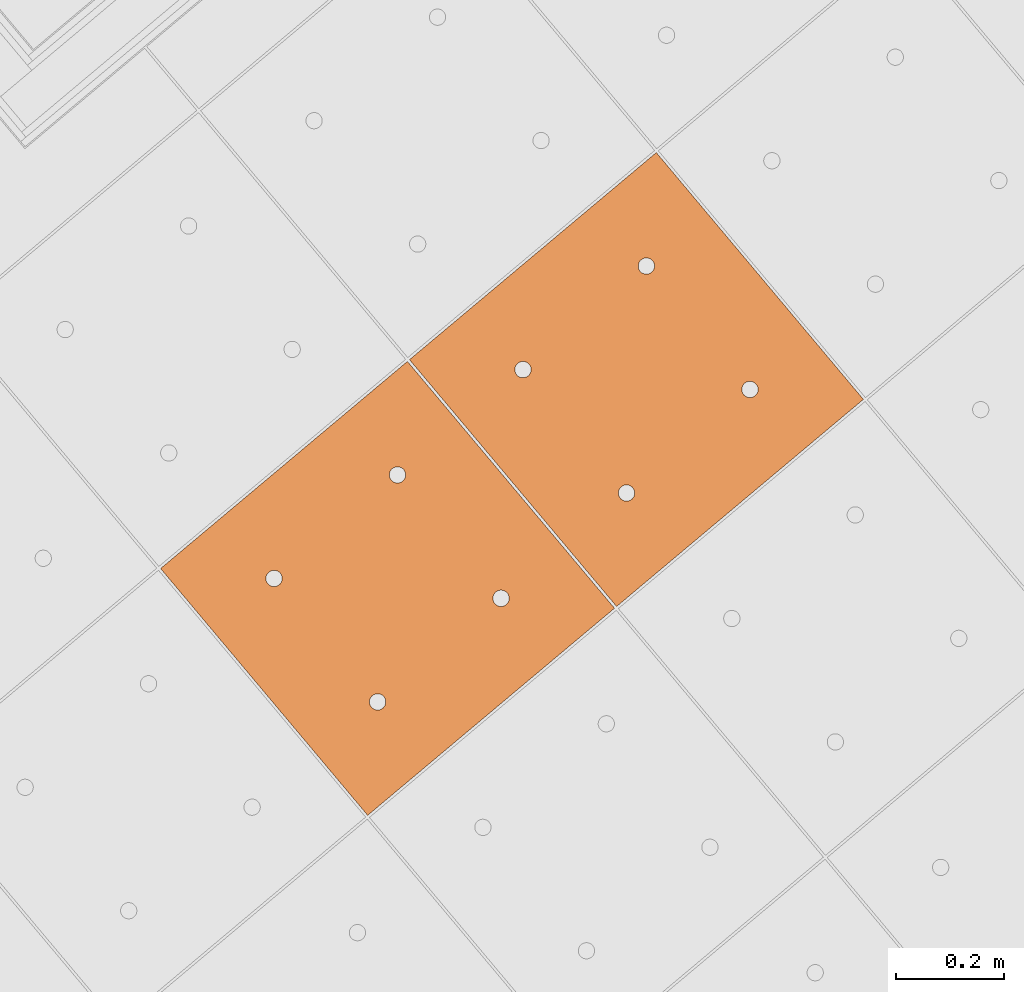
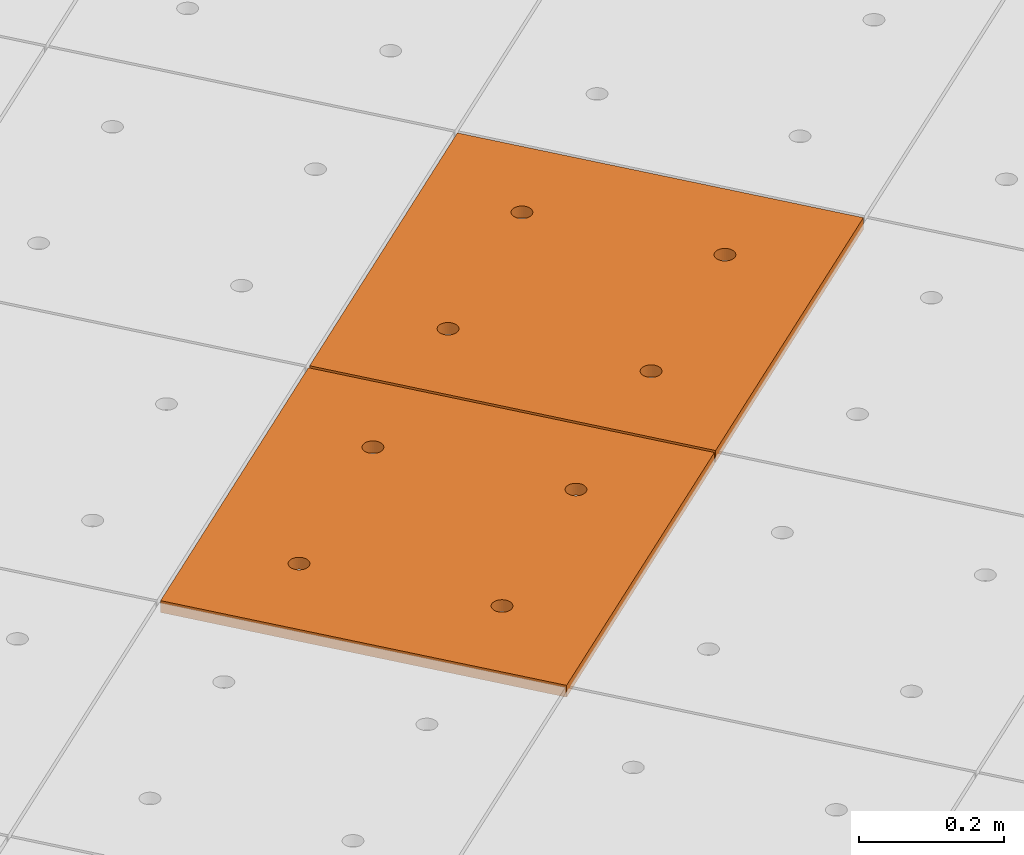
# One storey, part 186 of 338: 2 proxies, 1 element without a shape of its own.
"""IFC2X3 building model written with IfcOpenShell, lengths in millimetres."""

from ifc_helpers import new_model, entity, si_unit, converted_unit, derived_unit, money_unit, direction, frame, origin_with_axes, place, context, subcontext, project, spatial, faceted_brep, source, transform, mapped, material, type_object, type_shapes, element, aggregate, save


model = new_model("IFC2X3")

# Units and contexts
model_context = context("Model", 3, precision=0.01, world=origin_with_axes(), true_north=direction((0.0, 1.0)))
plan_context = context("Plan", 3, precision=0.01, world=origin_with_axes(), true_north=direction((0.0, 1.0)))
body_context = subcontext(model_context, "Body", "Model", "MODEL_VIEW")
ifc_project = project(units=[si_unit("LENGTHUNIT", "METRE", prefix="MILLI"), si_unit("AREAUNIT", "SQUARE_METRE"), si_unit("VOLUMEUNIT", "CUBIC_METRE"), converted_unit("PLANEANGLEUNIT", "DEGREE", entity("IfcPlaneAngleMeasure", 0.0174532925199), si_unit("PLANEANGLEUNIT", "RADIAN"), dimensions=[0, 0, 0, 0, 0, 0, 0]), money_unit("EUR"), converted_unit("TIMEUNIT", "Year", entity("IfcTimeMeasure", 31556926.0), si_unit("TIMEUNIT", "SECOND"), dimensions=[0, 0, 1, 0, 0, 0, 0]), si_unit("MASSUNIT", "GRAM", prefix="KILO"), si_unit("THERMODYNAMICTEMPERATUREUNIT", "DEGREE_CELSIUS"), si_unit("LUMINOUSINTENSITYUNIT", "LUMEN"), si_unit("ENERGYUNIT", "JOULE", prefix="MEGA"), derived_unit("THERMALCONDUCTANCEUNIT", [(si_unit("POWERUNIT", "WATT"), 1), (si_unit("LENGTHUNIT", "METRE"), -1), (si_unit("THERMODYNAMICTEMPERATUREUNIT", "KELVIN"), -1)]), derived_unit("SPECIFICHEATCAPACITYUNIT", [(si_unit("ENERGYUNIT", "JOULE"), 1), (si_unit("MASSUNIT", "GRAM", prefix="KILO"), -1), (si_unit("THERMODYNAMICTEMPERATUREUNIT", "KELVIN"), -1)]), derived_unit("MASSDENSITYUNIT", [(si_unit("MASSUNIT", "GRAM", prefix="KILO"), 1), (si_unit("VOLUMEUNIT", "CUBIC_METRE"), -1)])], contexts=[model_context, plan_context])

# Site, building, storey
site_placement = place(None, origin_with_axes())
site = spatial("IfcSite", under=ifc_project, at=site_placement, Name="Fortuinstraat Woensdrecht", CompositionType="ELEMENT")
building_placement = place(site_placement, origin_with_axes())
building = spatial("IfcBuilding", under=site, at=building_placement, Name="IKC Fortuna", CompositionType="ELEMENT")
storey_placement = place(building_placement, origin_with_axes())
storey = spatial("IfcBuildingStorey", under=building, at=storey_placement, Name="00 begane grond", CompositionType="ELEMENT", Elevation=0.0)

# Covering, proxies
covering_type = type_object("IfcCoveringType", Name="Curtain Wall Type", PredefinedType="CEILING")
covering_placement = place(storey_placement, frame((19785.7448517, -11392.5753808, 4660.0), z_axis=(0.0, 0.0, 1.0), x_axis=(1.0, 0.0, 0.0)))
covering = element("IfcCovering", 1, at=covering_placement, inside=storey, type_object=covering_type, Name="45_Plafondafwerking_P01", PredefinedType="CEILING")
ifc_material = material(Name="Gipsplaat")
building_element_proxy_type = type_object("IfcBuildingElementProxyType", Name="Main Panel 600 x 600 x 20", PredefinedType="NOTDEFINED")
shared_shape = source(origin_with_axes(), body_context, "Body", "Brep", [
    faceted_brep([(2.49999999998, 2.49999999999, -10.0), (300.0, 2.49999999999, -10.0), (300.0, 2.49999999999, 10.0), (2.49999999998, 2.49999999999, 10.0), (2.49999999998, 300.0, -10.0), (2.49999999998, 597.5, -10.0), (300.0, 597.5, -10.0), (597.5, 597.5, -10.0), (597.5, 300.0, -10.0), (597.5, 2.49999999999, -10.0), (166.25, 450.06232995, -10.0), (165.79423259, 452.64711538, -10.0), (164.896546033, 455.11348892, -10.0), (163.58421608, 457.38651108, -10.0), (161.897117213, 459.39711721, -10.0), (159.886511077, 461.08421608, -10.0), (157.613488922, 462.39654603, -10.0), (155.147115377, 463.29423259, -10.0), (152.562329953, 463.75, -10.0), (149.937670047, 463.75, -10.0), (147.352884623, 463.29423259, -10.0), (144.886511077, 462.39654603, -10.0), (142.613488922, 461.08421608, -10.0), (140.602882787, 459.39711721, -10.0), (138.91578392, 457.38651108, -10.0), (137.603453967, 455.11348892, -10.0), (136.705767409, 452.64711538, -10.0), (136.25, 450.06232995, -10.0), (136.25, 448.75, -10.0), (136.25, 447.43767005, -10.0), (136.705767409, 444.85288462, -10.0), (137.603453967, 442.38651108, -10.0), (138.91578392, 440.11348892, -10.0), (140.602882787, 438.10288279, -10.0), (142.613488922, 436.41578392, -10.0), (144.886511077, 435.10345397, -10.0), (147.352884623, 434.20576741, -10.0), (149.937670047, 433.75, -10.0), (152.562329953, 433.75, -10.0), (155.147115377, 434.20576741, -10.0), (157.613488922, 435.10345397, -10.0), (159.886511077, 436.41578392, -10.0), (161.897117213, 438.10288279, -10.0), (163.58421608, 440.11348892, -10.0), (164.896546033, 442.38651108, -10.0), (165.79423259, 444.85288462, -10.0), (166.25, 447.43767005, -10.0), (463.75, 450.06232995, -10.0), (463.29423259, 452.64711538, -10.0), (462.396546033, 455.11348892, -10.0), (461.08421608, 457.38651108, -10.0), (459.397117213, 459.39711721, -10.0), (457.386511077, 461.08421608, -10.0), (455.113488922, 462.39654603, -10.0), (452.647115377, 463.29423259, -10.0), (450.062329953, 463.75, -10.0), (447.437670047, 463.75, -10.0), (444.852884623, 463.29423259, -10.0), (442.386511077, 462.39654603, -10.0), (440.113488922, 461.08421608, -10.0), (438.102882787, 459.39711721, -10.0), (436.41578392, 457.38651108, -10.0), (435.103453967, 455.11348892, -10.0), (434.205767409, 452.64711538, -10.0), (433.75, 450.06232995, -10.0), (433.75, 448.75, -10.0), (433.75, 447.43767005, -10.0), (434.205767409, 444.85288462, -10.0), (435.103453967, 442.38651108, -10.0), (436.41578392, 440.11348892, -10.0), (438.102882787, 438.10288279, -10.0), (440.113488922, 436.41578392, -10.0), (442.386511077, 435.10345397, -10.0), (444.852884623, 434.20576741, -10.0), (447.437670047, 433.75, -10.0), (450.062329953, 433.75, -10.0), (452.647115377, 434.20576741, -10.0), (455.113488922, 435.10345397, -10.0), (457.386511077, 436.41578392, -10.0), (459.397117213, 438.10288279, -10.0), (461.08421608, 440.11348892, -10.0), (462.396546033, 442.38651108, -10.0), (463.29423259, 444.85288462, -10.0), (463.75, 447.43767005, -10.0), (463.75, 152.56232995, -10.0), (463.29423259, 155.14711538, -10.0), (462.396546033, 157.61348892, -10.0), (461.08421608, 159.88651108, -10.0), (459.397117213, 161.89711721, -10.0), (457.386511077, 163.58421608, -10.0), (455.113488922, 164.89654603, -10.0), (452.647115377, 165.79423259, -10.0), (450.062329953, 166.25, -10.0), (447.437670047, 166.25, -10.0), (444.852884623, 165.79423259, -10.0), (442.386511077, 164.89654603, -10.0), (440.113488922, 163.58421608, -10.0), (438.102882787, 161.89711721, -10.0), (436.41578392, 159.88651108, -10.0), (435.103453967, 157.61348892, -10.0), (434.205767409, 155.14711538, -10.0), (433.75, 152.56232995, -10.0), (433.75, 151.25, -10.0), (433.75, 149.93767005, -10.0), (434.205767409, 147.35288462, -10.0), (435.103453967, 144.88651108, -10.0), (436.41578392, 142.61348892, -10.0), (438.102882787, 140.60288279, -10.0), (440.113488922, 138.91578392, -10.0), (442.386511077, 137.60345397, -10.0), (444.852884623, 136.70576741, -10.0), (447.437670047, 136.25, -10.0), (450.062329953, 136.25, -10.0), (452.647115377, 136.70576741, -10.0), (455.113488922, 137.60345397, -10.0), (457.386511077, 138.91578392, -10.0), (459.397117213, 140.60288279, -10.0), (461.08421608, 142.61348892, -10.0), (462.396546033, 144.88651108, -10.0), (463.29423259, 147.35288462, -10.0), (463.75, 149.93767005, -10.0), (166.25, 152.56232995, -10.0), (165.79423259, 155.14711538, -10.0), (164.896546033, 157.61348892, -10.0), (163.58421608, 159.88651108, -10.0), (161.897117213, 161.89711721, -10.0), (159.886511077, 163.58421608, -10.0), (157.613488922, 164.89654603, -10.0), (155.147115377, 165.79423259, -10.0), (152.562329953, 166.25, -10.0), (149.937670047, 166.25, -10.0), (147.352884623, 165.79423259, -10.0), (144.886511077, 164.89654603, -10.0), (142.613488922, 163.58421608, -10.0), (140.602882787, 161.89711721, -10.0), (138.91578392, 159.88651108, -10.0), (137.603453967, 157.61348892, -10.0), (136.705767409, 155.14711538, -10.0), (136.25, 152.56232995, -10.0), (136.25, 151.25, -10.0), (136.25, 149.93767005, -10.0), (136.705767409, 147.35288462, -10.0), (137.603453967, 144.88651108, -10.0), (138.91578392, 142.61348892, -10.0), (140.602882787, 140.60288279, -10.0), (142.613488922, 138.91578392, -10.0), (144.886511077, 137.60345397, -10.0), (147.352884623, 136.70576741, -10.0), (149.937670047, 136.25, -10.0), (152.562329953, 136.25, -10.0), (155.147115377, 136.70576741, -10.0), (157.613488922, 137.60345397, -10.0), (159.886511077, 138.91578392, -10.0), (161.897117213, 140.60288279, -10.0), (163.58421608, 142.61348892, -10.0), (164.896546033, 144.88651108, -10.0), (165.79423259, 147.35288462, -10.0), (166.25, 149.93767005, -10.0), (597.5, 2.49999999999, 10.0), (597.5, 300.0, 10.0), (597.5, 597.5, 10.0), (300.0, 597.5, 10.0), (2.49999999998, 597.5, 10.0), (2.49999999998, 300.0, 10.0), (166.25, 450.06232995, 10.0), (166.25, 447.43767005, 10.0), (165.79423259, 444.85288462, 10.0), (164.896546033, 442.38651108, 10.0), (163.58421608, 440.11348892, 10.0), (161.897117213, 438.10288279, 10.0), (159.886511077, 436.41578392, 10.0), (157.613488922, 435.10345397, 10.0), (155.147115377, 434.20576741, 10.0), (152.562329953, 433.75, 10.0), (149.937670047, 433.75, 10.0), (147.352884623, 434.20576741, 10.0), (144.886511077, 435.10345397, 10.0), (142.613488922, 436.41578392, 10.0), (140.602882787, 438.10288279, 10.0), (138.91578392, 440.11348892, 10.0), (137.603453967, 442.38651108, 10.0), (136.705767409, 444.85288462, 10.0), (136.25, 447.43767005, 10.0), (136.25, 448.75, 10.0), (136.25, 450.06232995, 10.0), (136.705767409, 452.64711538, 10.0), (137.603453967, 455.11348892, 10.0), (138.91578392, 457.38651108, 10.0), (140.602882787, 459.39711721, 10.0), (142.613488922, 461.08421608, 10.0), (144.886511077, 462.39654603, 10.0), (147.352884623, 463.29423259, 10.0), (149.937670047, 463.75, 10.0), (152.562329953, 463.75, 10.0), (155.147115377, 463.29423259, 10.0), (157.613488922, 462.39654603, 10.0), (159.886511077, 461.08421608, 10.0), (161.897117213, 459.39711721, 10.0), (163.58421608, 457.38651108, 10.0), (164.896546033, 455.11348892, 10.0), (165.79423259, 452.64711538, 10.0), (463.75, 450.06232995, 10.0), (463.75, 447.43767005, 10.0), (463.29423259, 444.85288462, 10.0), (462.396546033, 442.38651108, 10.0), (461.08421608, 440.11348892, 10.0), (459.397117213, 438.10288279, 10.0), (457.386511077, 436.41578392, 10.0), (455.113488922, 435.10345397, 10.0), (452.647115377, 434.20576741, 10.0), (450.062329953, 433.75, 10.0), (447.437670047, 433.75, 10.0), (444.852884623, 434.20576741, 10.0), (442.386511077, 435.10345397, 10.0), (440.113488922, 436.41578392, 10.0), (438.102882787, 438.10288279, 10.0), (436.41578392, 440.11348892, 10.0), (435.103453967, 442.38651108, 10.0), (434.205767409, 444.85288462, 10.0), (433.75, 447.43767005, 10.0), (433.75, 448.75, 10.0), (433.75, 450.06232995, 10.0), (434.205767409, 452.64711538, 10.0), (435.103453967, 455.11348892, 10.0), (436.41578392, 457.38651108, 10.0), (438.102882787, 459.39711721, 10.0), (440.113488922, 461.08421608, 10.0), (442.386511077, 462.39654603, 10.0), (444.852884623, 463.29423259, 10.0), (447.437670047, 463.75, 10.0), (450.062329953, 463.75, 10.0), (452.647115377, 463.29423259, 10.0), (455.113488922, 462.39654603, 10.0), (457.386511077, 461.08421608, 10.0), (459.397117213, 459.39711721, 10.0), (461.08421608, 457.38651108, 10.0), (462.396546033, 455.11348892, 10.0), (463.29423259, 452.64711538, 10.0), (463.75, 152.56232995, 10.0), (463.75, 149.93767005, 10.0), (463.29423259, 147.35288462, 10.0), (462.396546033, 144.88651108, 10.0), (461.08421608, 142.61348892, 10.0), (459.397117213, 140.60288279, 10.0), (457.386511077, 138.91578392, 10.0), (455.113488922, 137.60345397, 10.0), (452.647115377, 136.70576741, 10.0), (450.062329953, 136.25, 10.0), (447.437670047, 136.25, 10.0), (444.852884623, 136.70576741, 10.0), (442.386511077, 137.60345397, 10.0), (440.113488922, 138.91578392, 10.0), (438.102882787, 140.60288279, 10.0), (436.41578392, 142.61348892, 10.0), (435.103453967, 144.88651108, 10.0), (434.205767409, 147.35288462, 10.0), (433.75, 149.93767005, 10.0), (433.75, 151.25, 10.0), (433.75, 152.56232995, 10.0), (434.205767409, 155.14711538, 10.0), (435.103453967, 157.61348892, 10.0), (436.41578392, 159.88651108, 10.0), (438.102882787, 161.89711721, 10.0), (440.113488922, 163.58421608, 10.0), (442.386511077, 164.89654603, 10.0), (444.852884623, 165.79423259, 10.0), (447.437670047, 166.25, 10.0), (450.062329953, 166.25, 10.0), (452.647115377, 165.79423259, 10.0), (455.113488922, 164.89654603, 10.0), (457.386511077, 163.58421608, 10.0), (459.397117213, 161.89711721, 10.0), (461.08421608, 159.88651108, 10.0), (462.396546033, 157.61348892, 10.0), (463.29423259, 155.14711538, 10.0), (166.25, 152.56232995, 10.0), (166.25, 149.93767005, 10.0), (165.79423259, 147.35288462, 10.0), (164.896546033, 144.88651108, 10.0), (163.58421608, 142.61348892, 10.0), (161.897117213, 140.60288279, 10.0), (159.886511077, 138.91578392, 10.0), (157.613488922, 137.60345397, 10.0), (155.147115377, 136.70576741, 10.0), (152.562329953, 136.25, 10.0), (149.937670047, 136.25, 10.0), (147.352884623, 136.70576741, 10.0), (144.886511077, 137.60345397, 10.0), (142.613488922, 138.91578392, 10.0), (140.602882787, 140.60288279, 10.0), (138.91578392, 142.61348892, 10.0), (137.603453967, 144.88651108, 10.0), (136.705767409, 147.35288462, 10.0), (136.25, 149.93767005, 10.0), (136.25, 151.25, 10.0), (136.25, 152.56232995, 10.0), (136.705767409, 155.14711538, 10.0), (137.603453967, 157.61348892, 10.0), (138.91578392, 159.88651108, 10.0), (140.602882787, 161.89711721, 10.0), (142.613488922, 163.58421608, 10.0), (144.886511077, 164.89654603, 10.0), (147.352884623, 165.79423259, 10.0), (149.937670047, 166.25, 10.0), (152.562329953, 166.25, 10.0), (155.147115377, 165.79423259, 10.0), (157.613488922, 164.89654603, 10.0), (159.886511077, 163.58421608, 10.0), (161.897117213, 161.89711721, 10.0), (163.58421608, 159.88651108, 10.0), (164.896546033, 157.61348892, 10.0), (165.79423259, 155.14711538, 10.0)], [[[0, 1, 2, 3]], [[0, 4, 5, 6, 7, 8, 9, 1], [10, 11, 12, 13, 14, 15, 16, 17, 18, 19, 20, 21, 22, 23, 24, 25, 26, 27, 28, 29, 30, 31, 32, 33, 34, 35, 36, 37, 38, 39, 40, 41, 42, 43, 44, 45, 46], [47, 48, 49, 50, 51, 52, 53, 54, 55, 56, 57, 58, 59, 60, 61, 62, 63, 64, 65, 66, 67, 68, 69, 70, 71, 72, 73, 74, 75, 76, 77, 78, 79, 80, 81, 82, 83], [84, 85, 86, 87, 88, 89, 90, 91, 92, 93, 94, 95, 96, 97, 98, 99, 100, 101, 102, 103, 104, 105, 106, 107, 108, 109, 110, 111, 112, 113, 114, 115, 116, 117, 118, 119, 120], [121, 122, 123, 124, 125, 126, 127, 128, 129, 130, 131, 132, 133, 134, 135, 136, 137, 138, 139, 140, 141, 142, 143, 144, 145, 146, 147, 148, 149, 150, 151, 152, 153, 154, 155, 156, 157]], [[1, 9, 158, 2]], [[3, 2, 158, 159, 160, 161, 162, 163], [164, 165, 166, 167, 168, 169, 170, 171, 172, 173, 174, 175, 176, 177, 178, 179, 180, 181, 182, 183, 184, 185, 186, 187, 188, 189, 190, 191, 192, 193, 194, 195, 196, 197, 198, 199, 200], [201, 202, 203, 204, 205, 206, 207, 208, 209, 210, 211, 212, 213, 214, 215, 216, 217, 218, 219, 220, 221, 222, 223, 224, 225, 226, 227, 228, 229, 230, 231, 232, 233, 234, 235, 236, 237], [238, 239, 240, 241, 242, 243, 244, 245, 246, 247, 248, 249, 250, 251, 252, 253, 254, 255, 256, 257, 258, 259, 260, 261, 262, 263, 264, 265, 266, 267, 268, 269, 270, 271, 272, 273, 274], [275, 276, 277, 278, 279, 280, 281, 282, 283, 284, 285, 286, 287, 288, 289, 290, 291, 292, 293, 294, 295, 296, 297, 298, 299, 300, 301, 302, 303, 304, 305, 306, 307, 308, 309, 310, 311]], [[4, 0, 3, 163]], [[5, 4, 163, 162]], [[6, 5, 162, 161]], [[7, 6, 161, 160]], [[8, 7, 160, 159]], [[9, 8, 159, 158]], [[11, 10, 164, 200]], [[12, 11, 200, 199]], [[13, 12, 199, 198]], [[14, 13, 198, 197]], [[15, 14, 197, 196]], [[16, 15, 196, 195]], [[17, 16, 195, 194]], [[18, 17, 194, 193]], [[19, 18, 193, 192]], [[20, 19, 192, 191]], [[21, 20, 191, 190]], [[22, 21, 190, 189]], [[23, 22, 189, 188]], [[24, 23, 188, 187]], [[25, 24, 187, 186]], [[26, 25, 186, 185]], [[27, 26, 185, 184]], [[28, 27, 184, 183]], [[29, 28, 183, 182]], [[30, 29, 182, 181]], [[31, 30, 181, 180]], [[32, 31, 180, 179]], [[33, 32, 179, 178]], [[34, 33, 178, 177]], [[35, 34, 177, 176]], [[36, 35, 176, 175]], [[37, 36, 175, 174]], [[38, 37, 174, 173]], [[39, 38, 173, 172]], [[40, 39, 172, 171]], [[41, 40, 171, 170]], [[42, 41, 170, 169]], [[43, 42, 169, 168]], [[44, 43, 168, 167]], [[45, 44, 167, 166]], [[46, 45, 166, 165]], [[10, 46, 165, 164]], [[48, 47, 201, 237]], [[49, 48, 237, 236]], [[50, 49, 236, 235]], [[51, 50, 235, 234]], [[52, 51, 234, 233]], [[53, 52, 233, 232]], [[54, 53, 232, 231]], [[55, 54, 231, 230]], [[56, 55, 230, 229]], [[57, 56, 229, 228]], [[58, 57, 228, 227]], [[59, 58, 227, 226]], [[60, 59, 226, 225]], [[61, 60, 225, 224]], [[62, 61, 224, 223]], [[63, 62, 223, 222]], [[64, 63, 222, 221]], [[65, 64, 221, 220]], [[66, 65, 220, 219]], [[67, 66, 219, 218]], [[68, 67, 218, 217]], [[69, 68, 217, 216]], [[70, 69, 216, 215]], [[71, 70, 215, 214]], [[72, 71, 214, 213]], [[73, 72, 213, 212]], [[74, 73, 212, 211]], [[75, 74, 211, 210]], [[76, 75, 210, 209]], [[77, 76, 209, 208]], [[78, 77, 208, 207]], [[79, 78, 207, 206]], [[80, 79, 206, 205]], [[81, 80, 205, 204]], [[82, 81, 204, 203]], [[83, 82, 203, 202]], [[47, 83, 202, 201]], [[85, 84, 238, 274]], [[86, 85, 274, 273]], [[87, 86, 273, 272]], [[88, 87, 272, 271]], [[89, 88, 271, 270]], [[90, 89, 270, 269]], [[91, 90, 269, 268]], [[92, 91, 268, 267]], [[93, 92, 267, 266]], [[94, 93, 266, 265]], [[95, 94, 265, 264]], [[96, 95, 264, 263]], [[97, 96, 263, 262]], [[98, 97, 262, 261]], [[99, 98, 261, 260]], [[100, 99, 260, 259]], [[101, 100, 259, 258]], [[102, 101, 258, 257]], [[103, 102, 257, 256]], [[104, 103, 256, 255]], [[105, 104, 255, 254]], [[106, 105, 254, 253]], [[107, 106, 253, 252]], [[108, 107, 252, 251]], [[109, 108, 251, 250]], [[110, 109, 250, 249]], [[111, 110, 249, 248]], [[112, 111, 248, 247]], [[113, 112, 247, 246]], [[114, 113, 246, 245]], [[115, 114, 245, 244]], [[116, 115, 244, 243]], [[117, 116, 243, 242]], [[118, 117, 242, 241]], [[119, 118, 241, 240]], [[120, 119, 240, 239]], [[84, 120, 239, 238]], [[122, 121, 275, 311]], [[123, 122, 311, 310]], [[124, 123, 310, 309]], [[125, 124, 309, 308]], [[126, 125, 308, 307]], [[127, 126, 307, 306]], [[128, 127, 306, 305]], [[129, 128, 305, 304]], [[130, 129, 304, 303]], [[131, 130, 303, 302]], [[132, 131, 302, 301]], [[133, 132, 301, 300]], [[134, 133, 300, 299]], [[135, 134, 299, 298]], [[136, 135, 298, 297]], [[137, 136, 297, 296]], [[138, 137, 296, 295]], [[139, 138, 295, 294]], [[140, 139, 294, 293]], [[141, 140, 293, 292]], [[142, 141, 292, 291]], [[143, 142, 291, 290]], [[144, 143, 290, 289]], [[145, 144, 289, 288]], [[146, 145, 288, 287]], [[147, 146, 287, 286]], [[148, 147, 286, 285]], [[149, 148, 285, 284]], [[150, 149, 284, 283]], [[151, 150, 283, 282]], [[152, 151, 282, 281]], [[153, 152, 281, 280]], [[154, 153, 280, 279]], [[155, 154, 279, 278]], [[156, 155, 278, 277]], [[157, 156, 277, 276]], [[121, 157, 276, 275]]]),
])
type_shapes(building_element_proxy_type, [shared_shape])
proxy_1_placement = place(covering_placement, frame((-1222.7371047, 5982.41004303, 1.41220368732e-10), z_axis=(0.0, 0.0, 1.0), x_axis=(1.0, 0.0, 0.0)))
proxy_1 = element("IfcBuildingElementProxy", 2, at=proxy_1_placement, type_object=building_element_proxy_type, material=ifc_material, Name="__600x628 Rockfon Krios", context=body_context, shape_type="MappedRepresentation", body=[
    mapped(shared_shape, transform((36.9769427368, 422.649625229, 0.0), x_axis=(-0.766044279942, -0.642787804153, 0.0), y_axis=(0.642787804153, -0.766044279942, 0.0), z_axis=(0.0, 0.0, 1.0))),
])
proxy_2_placement = place(covering_placement, frame((-1682.36367267, 5596.73736054, 1.60760293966e-10), z_axis=(0.0, 0.0, 1.0), x_axis=(1.0, 0.0, 0.0)))
proxy_2 = element("IfcBuildingElementProxy", 3, at=proxy_2_placement, type_object=building_element_proxy_type, material=ifc_material, Name="__600x638 Rockfon Krios", context=body_context, shape_type="MappedRepresentation", body=[
    mapped(shared_shape, transform((36.9769427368, 422.649625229, 0.0), x_axis=(-0.766044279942, -0.642787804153, 0.0), y_axis=(0.642787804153, -0.766044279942, 0.0), z_axis=(0.0, 0.0, 1.0))),
])
aggregate(covering, [proxy_1, proxy_2])

save(model, "model.ifc")
